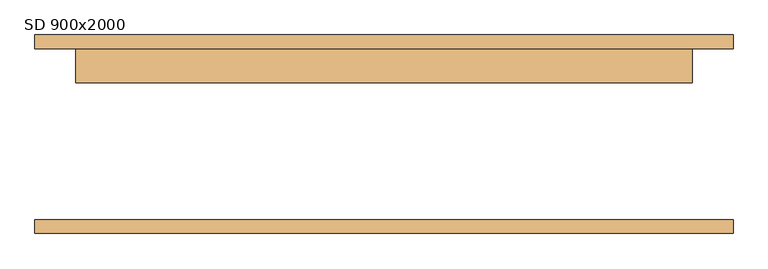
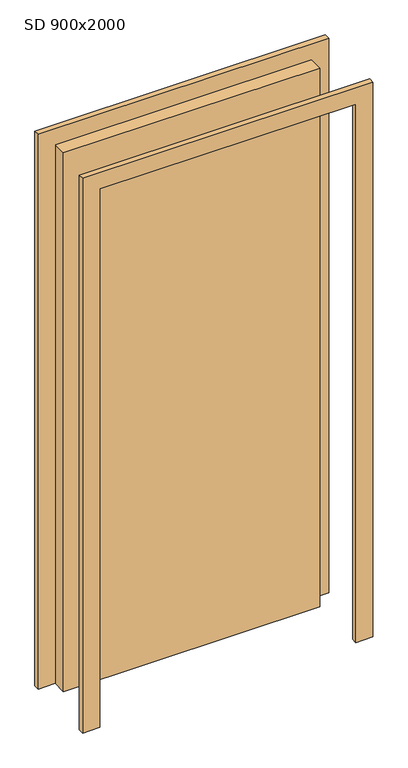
"""IFC4 building model written with IfcOpenShell, lengths in millimetres: door geometry, JednokridlePlne : SD 900x2000."""

from ifc_helpers import new_model, si_unit, frame, origin, origin_with_axes, place, context, project, spatial, polyline, outline, extrude, source, transform, mapped, element, save


def sd_900x2000_4224ae2a(model_context):
    return source(origin(), model_context, "Body", "SweptSolid", [
        extrude(outline(polyline([(2060.0, -510.0), (0.0, -510.0), (0.0, -450.0), (2000.0, -450.0), (2000.0, 450.0), (0.0, 450.0), (0.0, 510.0), (2060.0, 510.0), (2060.0, -510.0)])), frame((0.0, 125.0, 0.0), z_axis=(0.0, 1.0, 0.0), x_axis=(0.0, 0.0, 1.0)), (0.0, 0.0, 1.0), 20.0),
        extrude(outline(polyline([(2060.0, 510.0), (2060.0, -510.0), (0.0, -510.0), (0.0, -450.0), (2000.0, -450.0), (2000.0, 450.0), (0.0, 450.0), (0.0, 510.0), (2060.0, 510.0)])), frame((0.0, -145.0, 0.0), z_axis=(0.0, 1.0, 0.0), x_axis=(0.0, 0.0, 1.0)), (0.0, 0.0, 1.0), 20.0),
        extrude(outline(polyline([(450.0, 75.0), (-450.0, 75.0), (-450.0, 125.0), (450.0, 125.0), (450.0, 75.0)])), origin_with_axes(), (0.0, 0.0, 1.0), 2000.0),
    ])


if __name__ == "__main__":
    model = new_model("IFC4")
    model_context = context("Model", 3, world=origin())
    ifc_project = project(units=[si_unit("LENGTHUNIT", "METRE", prefix="MILLI")], contexts=[model_context])
    site = spatial("IfcSite", under=ifc_project)
    building = spatial("IfcBuilding", under=site)
    placement = place(None, origin())
    sd_900x2000_shape = sd_900x2000_4224ae2a(model_context)
    element("IfcDoor", 1, ObjectType="JednokridlePlne : SD 900x2000", at=placement, inside=building, context=model_context, shape_type="MappedRepresentation", body=[
        mapped(sd_900x2000_shape, transform((0.0, 0.0, 0.0), x_axis=(1.0, 0.0, 0.0), y_axis=(0.0, 1.0, 0.0), z_axis=(0.0, 0.0, 1.0))),
    ])
    save(model, "model.ifc")
